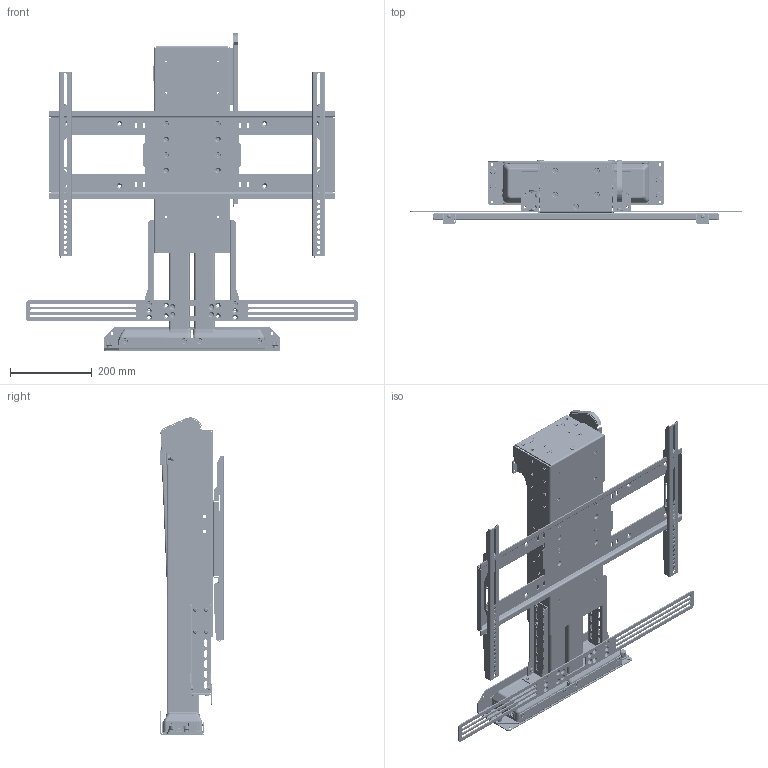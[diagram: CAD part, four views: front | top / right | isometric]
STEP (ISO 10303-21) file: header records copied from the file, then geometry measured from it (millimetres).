
FILE_DESCRIPTION(/* description */ ('STEP AP242','CAx-IF Rec.Pracs.---Representation and Presentation of Product Manufacturing Information (PMI)---4.0---2014-10-13','CAx-IF Rec.Pracs.---3D Tessellated Geometry---0.4---2014-09-14','2;1'),/* implementation_level */ '2;1');
FILE_NAME(/* name */ '654aa1ebc3dc330f76ed9487',/* time_stamp */ '2023-11-07T20:45:34Z',/* author */ (''),/* organization */ (''),/* preprocessor_version */ 'ST-DEVELOPER v19.4',/* originating_system */ ' ',/* authorisation */ ' ');
FILE_SCHEMA (('AP242_MANAGED_MODEL_BASED_3D_ENGINEERING_MIM_LF { 1 0 10303 442 1 1 4 }'));
Products named in the file (44): DL-65 (HD); WDS8151-215; Socket button head screw M6x1 x 12; Hex socket countersunk head screw M6x1 x 12; OLD_ULS-NX-024 - ULS Hinged Top Guide; Socket button head screw M6x1 x 8; Socket button head screw M6x1 x 16; L-65x SBM Bracket; ULS-NX-032 - HD Quick Release LC Mount; Lift Column H <2>; L45 LC Motor Housing; L45 LC Inner Profile; L45 LC Middle Profile; L65 PS Adapter; ULS-NX-031 - HD QUICK RELEASE BASE MOUNT w/ PEMS <1>; ULS-NX-031 - HD QUICK RELEASE BASE MOUNT; PEM FHS-M6-12  ; ULS-NX-041 -- ULS HD HTG Adapter Plate; ULS-NX-030 - HD REAR SUPPORT w/ PEMs <1>; ULS-NX-030 - HD Rear Support; ULS-NX-029 - HD Column Clamp; ULS-NX-033 - HD LOWER ACCESSORY BRACKET w/ PEMS <1>; ULS-NX-033 - HD LOWER ACCESSORY BRACKET; PEM CLS-M6-1  ; Lift Column H <1>; ULS-NX-033 - HD LOWER ACCESSORY BRACKET w/ PEMS <2>; SS Fixed Short - Rev B2 <1>; PEM CLS-M6-1; PEM Nut F-M4-2; PEM Nut CLSS-M5-1; PS Screen Support Fixed 01; SBP & VMB <1>; PZ Pan head screw M5x0.80 x 25; ULS-NX-118 - UL VMB WELDMENT <1>; 90107A012; PEM BSO-632-10  ZI; VMB Washer; ULS-NX-020 - UL SCREEN LOCK; Socket button head cap screw #6-32 x 0.188; ULS-NX-019 - UL LEVEL ADJUSTMENT PLATE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
Assembly tree (172 placements, depth 4):
  DL-65 (HD)
    WDS8151-215  x6
    Socket button head screw M6x1 x 12  x8
    Hex socket countersunk head screw M6x1 x 12  x17
    OLD_ULS-NX-024 - ULS Hinged Top Guide
    Socket button head screw M6x1 x 8  x4
    Hex socket countersunk head screw M6x1 x 12  x6
    Socket button head screw M6x1 x 16  x8
    L-65x SBM Bracket
    ULS-NX-032 - HD Quick Release LC Mount
    Lift Column H <2>
      L45 LC Motor Housing
      L45 LC Inner Profile
      L45 LC Middle Profile
    L65 PS Adapter
    ULS-NX-031 - HD QUICK RELEASE BASE MOUNT w/ PEMS <1>
      ULS-NX-031 - HD QUICK RELEASE BASE MOUNT
      PEM FHS-M6-12    x4
    ULS-NX-041 -- ULS HD HTG Adapter Plate
    ULS-NX-030 - HD REAR SUPPORT w/ PEMs <1>
      PEM FHS-M6-12    x2
      ULS-NX-030 - HD Rear Support
    ULS-NX-029 - HD Column Clamp
    ULS-NX-033 - HD LOWER ACCESSORY BRACKET w/ PEMS <1>
      ULS-NX-033 - HD LOWER ACCESSORY BRACKET
      PEM CLS-M6-1    x4
    Lift Column H <1>
      L45 LC Inner Profile
      L45 LC Middle Profile
      L45 LC Motor Housing
    ULS-NX-033 - HD LOWER ACCESSORY BRACKET w/ PEMS <2>
      PEM CLS-M6-1    x4
      ULS-NX-033 - HD LOWER ACCESSORY BRACKET
    SS Fixed Short - Rev B2 <1>
      PEM CLS-M6-1  x42
      PEM Nut F-M4-2  x8
      PEM Nut CLSS-M5-1  x2
      PS Screen Support Fixed 01
      L65 PS Adapter
    SBP & VMB <1>
      PZ Pan head screw M5x0.80 x 25  x2
      ULS-NX-118 - UL VMB WELDMENT <1>
        90107A012  x2
        PEM BSO-632-10  ZI  x2
        VMB Washer  x4
        ULS-NX-020 - UL SCREEN LOCK
        Socket button head cap screw #6-32 x 0.188  x2
        ULS-NX-019 - UL LEVEL ADJUSTMENT PLATE
        ULS-NX-018 - UL VERICAL MOUNTING BAR
      ULS-NX-118 - UL VMB WELDMENT <2>
        90107A012  x2
        PEM BSO-632-10  ZI  x2
        ULS-NX-018 - UL VERICAL MOUNTING BAR
        Socket button head cap screw #6-32 x 0.188  x2
        ULS-NX-019 - UL LEVEL ADJUSTMENT PLATE
        VMB Washer  x4
        ULS-NX-020 - UL SCREEN LOCK
      ULS-NX-017 - UL SCREEN BACK PLATE
Bounding box: 812.8 x 155.15 x 776.51 mm (x, y, z)
Volume: 16099963.4 mm3; surface area: 2537518.6 mm2
Topology: 162 solids, 162 shells, 10621 faces, 27717 edges, 17854 vertices
Faces by surface type: plane 6611, cylinder 2524, cone 764, bspline 431, torus 241, sphere 50
Full cylindrical faces by diameter (mm): 2.642 x4, 3.505 x4, 4 x8, 4.6 x4, 4.917 x50, 5 x44, 5.026 x4, 5.08 x4, 5.277 x8, 5.3 x12, 5.385 x12, 5.41 x8, 5.6 x8, 5.944 x4, 5.994 x4, 6 x69, 6.35 x28, 6.4 x20, 6.6 x18, 6.655 x4, 7.112 x2, 7.37 x16, 8.128 x34, 8.64 x2, 8.73 x50, 8.738 x50, 9.5 x2, 9.525 x8, 11.18 x50, 11.34 x23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
Entity records: 95984 total; most frequent: CARTESIAN_POINT 18506, DIRECTION 15150, ORIENTED_EDGE 14576, EDGE_CURVE 7288, AXIS2_PLACEMENT_3D 5240, VERTEX_POINT 4859, LINE 4670, VECTOR 4670
